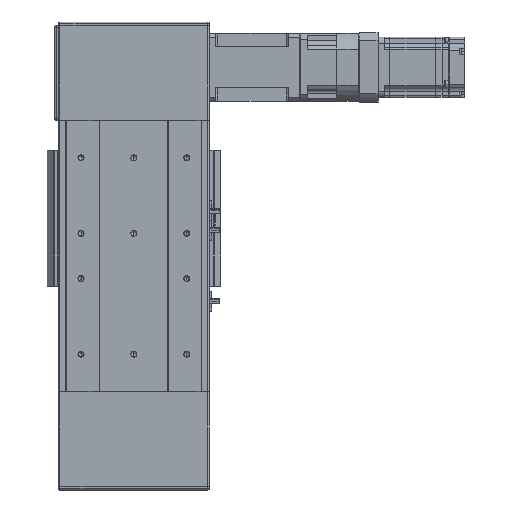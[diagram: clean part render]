
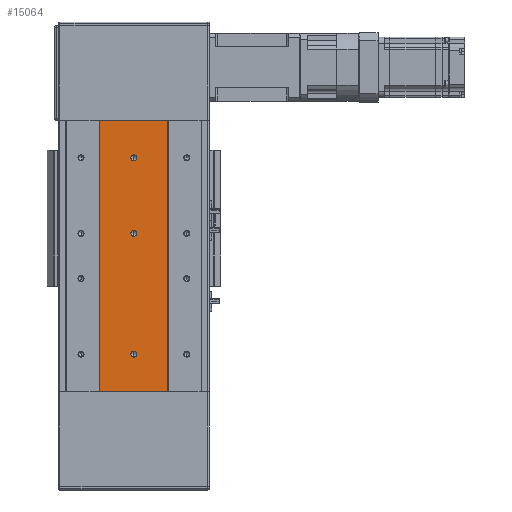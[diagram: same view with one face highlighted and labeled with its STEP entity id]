
A CAD part, front view. The second image highlights one B-rep face of the part: STEP entity #15064.
In plain terms, the highlighted planar face has unit normal (0, -1, 0).
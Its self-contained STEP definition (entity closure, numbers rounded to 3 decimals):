
#186 = DIRECTION ( 'NONE',  ( 0., 0., -1. ) ) ;
#193 = DIRECTION ( 'NONE',  ( 0., -1., 0. ) ) ;
#195 = DIRECTION ( 'NONE',  ( 0., 0., -1. ) ) ;
#204 = CARTESIAN_POINT ( 'NONE',  ( 0., -67., -130. ) ) ;
#222 = CARTESIAN_POINT ( 'NONE',  ( -45., -67., 180. ) ) ;
#237 = DIRECTION ( 'NONE',  ( 0., -1., 0. ) ) ;
#249 = CARTESIAN_POINT ( 'NONE',  ( 0., -67., 130. ) ) ;
#267 = CARTESIAN_POINT ( 'NONE',  ( 0., -67., 30. ) ) ;
#268 = DIRECTION ( 'NONE',  ( 0., -1., 0. ) ) ;
#269 = DIRECTION ( 'NONE',  ( 0., 0., -1. ) ) ;
#271 = DIRECTION ( 'NONE',  ( 0., 0., -1. ) ) ;
#310 = CARTESIAN_POINT ( 'NONE',  ( 45., -67., 180. ) ) ;
#338 = DIRECTION ( 'NONE',  ( 0., 0., -1. ) ) ;
#3730 = EDGE_CURVE ( 'NONE', #22016, #22012, #62711, .T. ) ;
#5219 = CIRCLE ( 'NONE', #10609, 4. ) ;
#5240 = VECTOR ( 'NONE', #186, 1000. ) ;
#5243 = CIRCLE ( 'NONE', #10503, 4. ) ;
#5250 = LINE ( 'NONE', #222, #5240 ) ;
#5303 = CIRCLE ( 'NONE', #10553, 4. ) ;
#5304 = VECTOR ( 'NONE', #338, 1000. ) ;
#5312 = LINE ( 'NONE', #310, #5304 ) ;
#6596 = EDGE_CURVE ( 'NONE', #21031, #21161, #5243, .T. ) ;
#6600 = EDGE_CURVE ( 'NONE', #21859, #22016, #5250, .T. ) ;
#6623 = EDGE_CURVE ( 'NONE', #20993, #21223, #5219, .T. ) ;
#6642 = EDGE_CURVE ( 'NONE', #20997, #21013, #5303, .T. ) ;
#6648 = EDGE_CURVE ( 'NONE', #21856, #22012, #5312, .T. ) ;
#10349 = CARTESIAN_POINT ( 'NONE',  ( 45., -67., 180. ) ) ;
#10390 = PLANE ( 'NONE',  #33178 ) ;
#10407 = DIRECTION ( 'NONE',  ( 0., 0., 1. ) ) ;
#10416 = DIRECTION ( 'NONE',  ( 0., 1., 0. ) ) ;
#10503 = AXIS2_PLACEMENT_3D ( 'NONE', #204, #193, #195 ) ;
#10553 = AXIS2_PLACEMENT_3D ( 'NONE', #267, #268, #269 ) ;
#10609 = AXIS2_PLACEMENT_3D ( 'NONE', #249, #237, #271 ) ;
#11308 = FACE_BOUND ( 'NONE', #16776, .T. ) ;
#11315 = FACE_BOUND ( 'NONE', #63021, .T. ) ;
#11321 = FACE_OUTER_BOUND ( 'NONE', #16816, .T. ) ;
#11331 = FACE_BOUND ( 'NONE', #16876, .T. ) ;
#15064 = ADVANCED_FACE ( 'NONE', ( #11308, #11315, #11331, #11321 ), #10390, .F. ) ;
#16776 = EDGE_LOOP ( 'NONE', ( #20352, #20361 ) ) ;
#16816 = EDGE_LOOP ( 'NONE', ( #20404, #20417, #20360, #20336 ) ) ;
#16876 = EDGE_LOOP ( 'NONE', ( #20362, #20392 ) ) ;
#20336 = ORIENTED_EDGE ( 'NONE', *, *, #6600, .T. ) ;
#20352 = ORIENTED_EDGE ( 'NONE', *, *, #6623, .F. ) ;
#20360 = ORIENTED_EDGE ( 'NONE', *, *, #43486, .F. ) ;
#20361 = ORIENTED_EDGE ( 'NONE', *, *, #43198, .F. ) ;
#20362 = ORIENTED_EDGE ( 'NONE', *, *, #6596, .F. ) ;
#20381 = ORIENTED_EDGE ( 'NONE', *, *, #6642, .F. ) ;
#20392 = ORIENTED_EDGE ( 'NONE', *, *, #43293, .F. ) ;
#20404 = ORIENTED_EDGE ( 'NONE', *, *, #3730, .T. ) ;
#20417 = ORIENTED_EDGE ( 'NONE', *, *, #6648, .F. ) ;
#20418 = ORIENTED_EDGE ( 'NONE', *, *, #43295, .F. ) ;
#20993 = VERTEX_POINT ( 'NONE', #45268 ) ;
#20997 = VERTEX_POINT ( 'NONE', #45224 ) ;
#21013 = VERTEX_POINT ( 'NONE', #45332 ) ;
#21031 = VERTEX_POINT ( 'NONE', #45328 ) ;
#21161 = VERTEX_POINT ( 'NONE', #45369 ) ;
#21223 = VERTEX_POINT ( 'NONE', #45352 ) ;
#21856 = VERTEX_POINT ( 'NONE', #45467 ) ;
#21859 = VERTEX_POINT ( 'NONE', #45411 ) ;
#22012 = VERTEX_POINT ( 'NONE', #45579 ) ;
#22016 = VERTEX_POINT ( 'NONE', #45587 ) ;
#22484 = CIRCLE ( 'NONE', #27890, 4. ) ;
#22906 = CIRCLE ( 'NONE', #27849, 4. ) ;
#23148 = CIRCLE ( 'NONE', #27845, 4. ) ;
#27845 = AXIS2_PLACEMENT_3D ( 'NONE', #29195, #29231, #29199 ) ;
#27849 = AXIS2_PLACEMENT_3D ( 'NONE', #29212, #29197, #29204 ) ;
#27890 = AXIS2_PLACEMENT_3D ( 'NONE', #30386, #30387, #30341 ) ;
#28336 = DIRECTION ( 'NONE',  ( 1., 0., 0. ) ) ;
#28365 = CARTESIAN_POINT ( 'NONE',  ( 0., -67., 180. ) ) ;
#29195 = CARTESIAN_POINT ( 'NONE',  ( 0., -67., 30. ) ) ;
#29197 = DIRECTION ( 'NONE',  ( 0., -1., 0. ) ) ;
#29199 = DIRECTION ( 'NONE',  ( 0., 0., -1. ) ) ;
#29204 = DIRECTION ( 'NONE',  ( 0., 0., -1. ) ) ;
#29212 = CARTESIAN_POINT ( 'NONE',  ( 0., -67., -130. ) ) ;
#29231 = DIRECTION ( 'NONE',  ( 0., -1., 0. ) ) ;
#30341 = DIRECTION ( 'NONE',  ( 0., 0., -1. ) ) ;
#30386 = CARTESIAN_POINT ( 'NONE',  ( 0., -67., 130. ) ) ;
#30387 = DIRECTION ( 'NONE',  ( 0., -1., 0. ) ) ;
#31129 = LINE ( 'NONE', #28365, #31131 ) ;
#31131 = VECTOR ( 'NONE', #28336, 1000. ) ;
#33178 = AXIS2_PLACEMENT_3D ( 'NONE', #10349, #10416, #10407 ) ;
#43198 = EDGE_CURVE ( 'NONE', #21223, #20993, #22484, .T. ) ;
#43293 = EDGE_CURVE ( 'NONE', #21161, #21031, #22906, .T. ) ;
#43295 = EDGE_CURVE ( 'NONE', #21013, #20997, #23148, .T. ) ;
#43486 = EDGE_CURVE ( 'NONE', #21859, #21856, #31129, .T. ) ;
#45224 = CARTESIAN_POINT ( 'NONE',  ( 0., -67., 26. ) ) ;
#45268 = CARTESIAN_POINT ( 'NONE',  ( 0., -67., 126. ) ) ;
#45328 = CARTESIAN_POINT ( 'NONE',  ( 0., -67., -134. ) ) ;
#45332 = CARTESIAN_POINT ( 'NONE',  ( 0., -67., 34. ) ) ;
#45352 = CARTESIAN_POINT ( 'NONE',  ( 0., -67., 134. ) ) ;
#45369 = CARTESIAN_POINT ( 'NONE',  ( 0., -67., -126. ) ) ;
#45411 = CARTESIAN_POINT ( 'NONE',  ( -45., -67., 180. ) ) ;
#45467 = CARTESIAN_POINT ( 'NONE',  ( 45., -67., 180. ) ) ;
#45579 = CARTESIAN_POINT ( 'NONE',  ( 45., -67., -180. ) ) ;
#45587 = CARTESIAN_POINT ( 'NONE',  ( -45., -67., -180. ) ) ;
#62679 = VECTOR ( 'NONE', #65022, 1000. ) ;
#62711 = LINE ( 'NONE', #65050, #62679 ) ;
#63021 = EDGE_LOOP ( 'NONE', ( #20381, #20418 ) ) ;
#65022 = DIRECTION ( 'NONE',  ( 1., 0., 0. ) ) ;
#65050 = CARTESIAN_POINT ( 'NONE',  ( 45., -67., -180. ) ) ;
